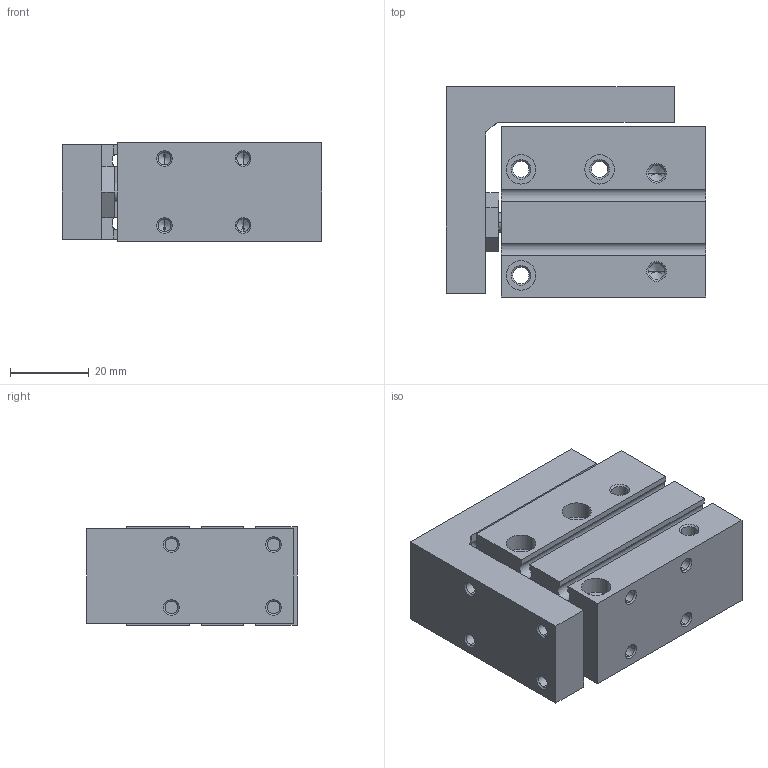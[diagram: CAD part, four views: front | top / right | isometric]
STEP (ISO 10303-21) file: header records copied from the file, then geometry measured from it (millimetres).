
FILE_DESCRIPTION (( 'STEP AP203' ), '1' );
FILE_NAME ('CXH16-10.STEP', '2020-04-16T18:10:11', ( '' ), ( '' ), 'SwSTEP 2.0', 'SolidWorks 2019', '' );
FILE_SCHEMA (( 'CONFIG_CONTROL_DESIGN' ));
Length unit declared in the file: millimetre
Products named in the file (1): CXH16-10
Bounding box: 66 x 53.5 x 25 mm (x, y, z)
Volume: 71383.6 mm3; surface area: 24227.4 mm2
Topology: 2 solids, 2 shells, 208 faces, 495 edges, 286 vertices
Faces by surface type: cone 88, cylinder 76, plane 44
Entity records: 5928 total; most frequent: DIRECTION 1093, CARTESIAN_POINT 1004, ORIENTED_EDGE 934, EDGE_CURVE 467, AXIS2_PLACEMENT_3D 421, VERTEX_POINT 286, EDGE_LOOP 253, LINE 251
